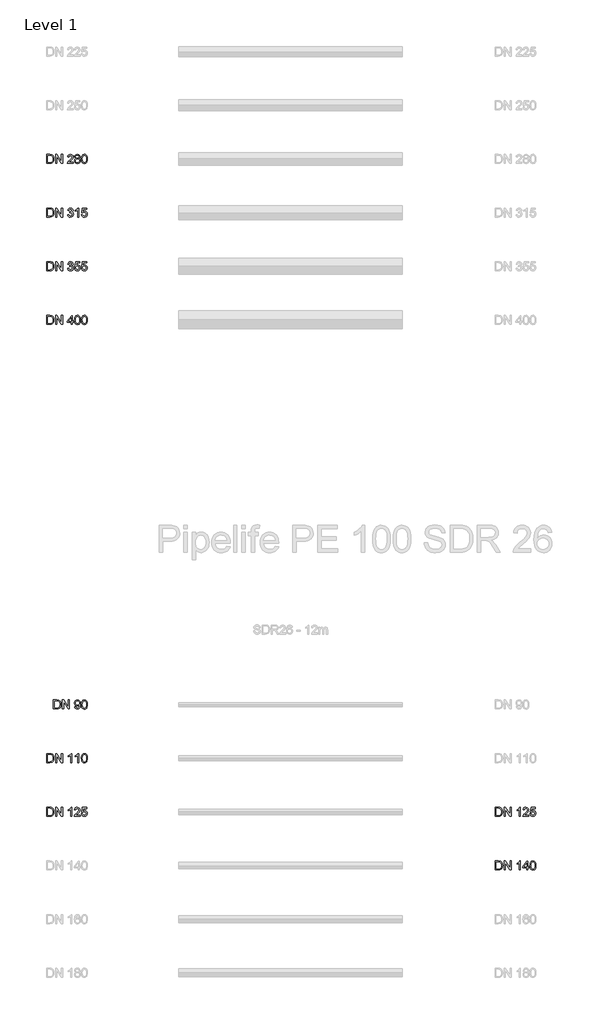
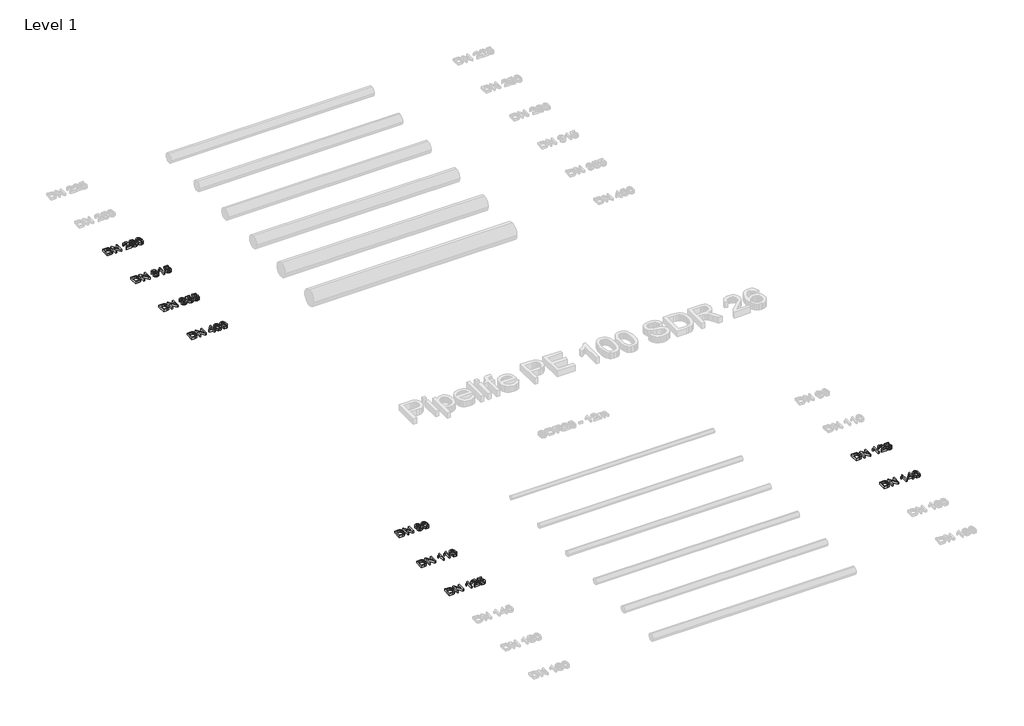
# One storey, part 5 of 26: 9 proxies.
"""IFC4 building model written with IfcOpenShell, lengths in millimetres."""

from ifc_helpers import new_model, si_unit, origin, origin_with_axes, place, context, project, spatial, polyline, outline, extrude, element, save

model = new_model("IFC4")

# Units and contexts
model_context = context("Model", 3, world=origin())
ifc_project = project(units=[si_unit("LENGTHUNIT", "METRE", prefix="MILLI")], contexts=[model_context])

# Site, building, storey
site = spatial("IfcSite", under=ifc_project)
building = spatial("IfcBuilding", under=site)
storey = spatial("IfcBuildingStorey", under=building, Name="Level 1", Elevation=0.0)

# Proxies
placement = place(None, origin())
element("IfcBuildingElementProxy", 1, Name="200mm Arial", ObjectType="200mm Arial", at=placement, inside=storey, context=model_context, shape_type="SweptSolid", body=[
    extrude(outline(polyline([(-19491.3116028, -82413.949573), (-19491.3116028, -82213.0369527), (-19422.0026349, -82213.0369527), (-19386.1464031, -82215.9309577), (-19370.1312736, -82221.5105013), (-19356.6177416, -82230.302881), (-19342.724065, -82245.606772), (-19332.8280393, -82264.6385338), (-19326.9051392, -82287.0302846), (-19324.9308391, -82312.4141423), (-19330.2773908, -82352.9547382), (-19344.0116519, -82382.2136195), (-19362.3567008, -82400.436041), (-19386.3671323, -82410.5160077), (-19418.6671715, -82413.949573), (-19491.3116028, -82413.949573)]), holes=[polyline([(-19466.1975253, -82388.8354954), (-19421.7573803, -82388.8354954), (-19389.4328156, -82385.2057264), (-19370.7934612, -82374.9540815), (-19362.0685265, -82364.0831685), (-19355.5140957, -82350.0116822), (-19351.4122114, -82332.6783089), (-19350.0449167, -82312.0217348), (-19352.7243239, -82284.6513144), (-19360.7625455, -82264.4423301), (-19372.6390025, -82250.5609162), (-19386.8331162, -82242.1732067), (-19422.4440933, -82238.1510302), (-19466.1975253, -82238.1510302), (-19466.1975253, -82388.8354954)])]), origin_with_axes(), (0.0, 0.0, 1.0), 50.0),
    extrude(outline(polyline([(-19290.3989825, -82413.949573), (-19290.3989825, -82213.0369527), (-19263.5190714, -82213.0369527), (-19158.5500754, -82372.2072292), (-19158.5500754, -82213.0369527), (-19133.4359979, -82213.0369527), (-19133.4359979, -82413.949573), (-19160.315909, -82413.949573), (-19265.284905, -82254.7302454), (-19265.284905, -82413.949573), (-19290.3989825, -82413.949573)])), origin_with_axes(), (0.0, 0.0, 1.0), 50.0),
    extrude(outline(polyline([(-19020.422649, -82360.5821582), (-18995.3085714, -82357.4428985), (-18989.6861083, -82373.2250361), (-18981.451683, -82383.8813512), (-18970.2006253, -82389.9514041), (-18955.528265, -82391.9747551), (-18938.3113877, -82389.1911147), (-18925.0185849, -82380.8401934), (-18916.5205108, -82368.3812565), (-18913.6878195, -82353.2735692), (-18916.4959853, -82338.9323028), (-18924.920483, -82327.3011004), (-18937.6737255, -82319.5939726), (-18953.4681259, -82317.02493), (-18971.0774107, -82319.7717822), (-18968.2815075, -82294.6577047), (-18964.2593311, -82294.9520102), (-18949.2129575, -82293.1493885), (-18935.7607392, -82287.7415231), (-18926.2693837, -82278.5935242), (-18923.1055985, -82265.5705016), (-18925.3987296, -82254.7241141), (-18932.2781229, -82245.925603), (-18942.7750225, -82240.0946734), (-18955.9206725, -82238.1510302), (-18969.0908479, -82240.1130675), (-18979.8575277, -82245.9991794), (-18987.7179396, -82255.809366), (-18992.1693118, -82269.5436271), (-19017.2833893, -82266.4043674), (-19009.8889612, -82243.8532011), (-18996.7310485, -82227.0164685), (-18978.7293562, -82216.5318316), (-18956.8035893, -82213.0369527), (-18941.0153203, -82214.7598667), (-18926.5146384, -82219.9286087), (-18914.2886934, -82228.0833263), (-18905.3246354, -82238.7641669), (-18899.8247996, -82251.0698196), (-18897.991521, -82264.0989736), (-18899.7328291, -82276.2390794), (-18904.9567534, -82287.2510138), (-18913.5897176, -82296.6320047), (-18925.5581452, -82303.87928), (-18909.8373212, -82310.2313758), (-18898.1877247, -82321.0471064), (-18890.9772376, -82335.7378608), (-18888.5737419, -82353.7150276), (-18893.3807333, -82378.191443), (-18907.8017075, -82398.645682), (-18929.5680589, -82412.478045), (-18956.4111818, -82417.0888326), (-18980.6913935, -82413.1524953), (-19000.4589194, -82401.3434833), (-19014.2054433, -82383.2804773), (-19020.422649, -82360.5821582)])), origin_with_axes(), (0.0, 0.0, 1.0), 50.0),
    extrude(outline(polyline([(-18772.4211333, -82413.949573), (-18797.5352108, -82413.949573), (-18797.5352108, -82257.3789958), (-18821.3249132, -82274.3260931), (-18847.7633659, -82287.0057592), (-18847.7633659, -82263.2651077), (-18810.9506409, -82239.769711), (-18797.4800285, -82226.1948653), (-18788.6079411, -82213.0369527), (-18772.4211333, -82213.0369527), (-18772.4211333, -82413.949573)])), origin_with_axes(), (0.0, 0.0, 1.0), 50.0),
    extrude(outline(polyline([(-18712.7751992, -82360.5821582), (-18687.6611216, -82357.4428985), (-18683.0503339, -82372.5199289), (-18675.005981, -82383.3172655), (-18663.5648509, -82389.8103827), (-18648.763732, -82391.9747551), (-18630.7620397, -82388.9642541), (-18617.2730332, -82379.9327511), (-18608.8485355, -82365.9225785), (-18606.0403696, -82347.9760685), (-18608.6707259, -82331.0780222), (-18616.5617947, -82318.1531014), (-18629.7748897, -82309.9493329), (-18648.3713245, -82307.2147434), (-18670.4197188, -82311.5802764), (-18684.5218619, -82322.9110419), (-18709.6359395, -82319.7717822), (-18687.6611216, -82216.1762123), (-18590.3440712, -82216.1762123), (-18590.3440712, -82241.2902899), (-18667.3540355, -82241.2902899), (-18678.0961897, -82296.619742), (-18660.1558111, -82285.7304349), (-18641.3570412, -82282.1006659), (-18617.8923012, -82286.601089), (-18598.4129496, -82300.1023582), (-18585.2979565, -82320.6792244), (-18580.9262921, -82346.4064386), (-18584.8626294, -82371.5205162), (-18596.6716415, -82393.0048247), (-18607.1072274, -82403.5415782), (-18619.2841214, -82411.0678307), (-18633.2023236, -82415.5835821), (-18648.8618339, -82417.0888326), (-18673.5283216, -82413.2199403), (-18693.1793515, -82401.6132634), (-18706.6499639, -82383.6177025), (-18712.7751992, -82360.5821582)])), origin_with_axes(), (0.0, 0.0, 1.0), 50.0),
])
element("IfcBuildingElementProxy", 2, Name="200mm Arial", ObjectType="200mm Arial", at=placement, inside=storey, context=model_context, shape_type="SweptSolid", body=[
    extrude(outline(polyline([(-19491.3116028, -84813.949573), (-19491.3116028, -84613.0369527), (-19422.0026349, -84613.0369527), (-19386.1464031, -84615.9309577), (-19370.1312736, -84621.5105013), (-19356.6177416, -84630.302881), (-19342.724065, -84645.606772), (-19332.8280393, -84664.6385338), (-19326.9051392, -84687.0302846), (-19324.9308391, -84712.4141423), (-19330.2773908, -84752.9547382), (-19344.0116519, -84782.2136195), (-19362.3567008, -84800.436041), (-19386.3671323, -84810.5160077), (-19418.6671715, -84813.949573), (-19491.3116028, -84813.949573)]), holes=[polyline([(-19466.1975253, -84788.8354954), (-19421.7573803, -84788.8354954), (-19389.4328156, -84785.2057264), (-19370.7934612, -84774.9540815), (-19362.0685265, -84764.0831685), (-19355.5140957, -84750.0116822), (-19351.4122114, -84732.6783089), (-19350.0449167, -84712.0217348), (-19352.7243239, -84684.6513144), (-19360.7625455, -84664.4423301), (-19372.6390025, -84650.5609162), (-19386.8331162, -84642.1732067), (-19422.4440933, -84638.1510302), (-19466.1975253, -84638.1510302), (-19466.1975253, -84788.8354954)])]), origin_with_axes(), (0.0, 0.0, 1.0), 50.0),
    extrude(outline(polyline([(-19290.3989825, -84813.949573), (-19290.3989825, -84613.0369527), (-19263.5190714, -84613.0369527), (-19158.5500754, -84772.2072292), (-19158.5500754, -84613.0369527), (-19133.4359979, -84613.0369527), (-19133.4359979, -84813.949573), (-19160.315909, -84813.949573), (-19265.284905, -84654.7302454), (-19265.284905, -84813.949573), (-19290.3989825, -84813.949573)])), origin_with_axes(), (0.0, 0.0, 1.0), 50.0),
    extrude(outline(polyline([(-18938.801897, -84813.949573), (-18938.801897, -84766.8606776), (-19029.8404281, -84766.8606776), (-19029.8404281, -84741.7466), (-18932.5233776, -84616.1762123), (-18913.6878195, -84616.1762123), (-18913.6878195, -84741.7466), (-18888.5737419, -84741.7466), (-18888.5737419, -84766.8606776), (-18913.6878195, -84766.8606776), (-18913.6878195, -84813.949573), (-18938.801897, -84813.949573)]), holes=[polyline([(-18938.801897, -84741.7466), (-18938.801897, -84664.1480245), (-18998.9383405, -84741.7466), (-18938.801897, -84741.7466)])]), origin_with_axes(), (0.0, 0.0, 1.0), 50.0),
    extrude(outline(polyline([(-18866.5989241, -84715.1119436), (-18864.7533827, -84682.9529258), (-18859.2167587, -84657.3054194), (-18850.0442343, -84637.7770168), (-18837.2909918, -84623.9753106), (-18820.8650607, -84615.7715422), (-18800.6744705, -84613.0369527), (-18785.1989013, -84614.6556334), (-18771.3420128, -84619.5116758), (-18759.7537299, -84627.4150073), (-18751.0839776, -84638.1755557), (-18739.3117537, -84667.9004209), (-18734.750017, -84715.1119436), (-18736.5771642, -84747.0870203), (-18742.058606, -84772.6732131), (-18751.1759481, -84792.2200098), (-18763.9107965, -84806.0768983), (-18780.3735158, -84814.335849), (-18800.6744705, -84817.0888326), (-18826.7695667, -84812.3063667), (-18846.5861435, -84797.9589689), (-18855.341735, -84782.8298218), (-18861.5957289, -84763.9789353), (-18866.5989241, -84715.1119436)]), holes=[polyline([(-18841.4848465, -84715.0628927), (-18838.5417906, -84754.5672876), (-18829.7126227, -84777.4311536), (-18816.5669727, -84788.3388547), (-18800.6744705, -84791.9747551), (-18784.7819683, -84788.326592), (-18771.6363184, -84777.3821026), (-18762.8071505, -84754.5059739), (-18759.8640945, -84715.0628927), (-18762.7090486, -84676.4475459), (-18771.2439109, -84653.4058703), (-18784.3650354, -84641.9647402), (-18800.9687761, -84638.1510302), (-18816.6896001, -84641.5110191), (-18829.3202152, -84651.5909857), (-18838.4436887, -84676.0674012), (-18841.4848465, -84715.0628927)])]), origin_with_axes(), (0.0, 0.0, 1.0), 50.0),
    extrude(outline(polyline([(-18712.7751992, -84715.1119436), (-18710.9296578, -84682.9529258), (-18705.3930338, -84657.3054194), (-18696.2205094, -84637.7770168), (-18683.4672669, -84623.9753106), (-18667.0413358, -84615.7715422), (-18646.8507456, -84613.0369527), (-18631.3751764, -84614.6556334), (-18617.5182879, -84619.5116758), (-18605.930005, -84627.4150073), (-18597.2602527, -84638.1755557), (-18585.4880288, -84667.9004209), (-18580.9262921, -84715.1119436), (-18582.7534393, -84747.0870203), (-18588.2348811, -84772.6732131), (-18597.3522232, -84792.2200098), (-18610.0870716, -84806.0768983), (-18626.5497909, -84814.335849), (-18646.8507456, -84817.0888326), (-18672.9458418, -84812.3063667), (-18692.7624186, -84797.9589689), (-18701.5180101, -84782.8298218), (-18707.772004, -84763.9789353), (-18712.7751992, -84715.1119436)]), holes=[polyline([(-18687.6611216, -84715.0628927), (-18684.7180657, -84754.5672876), (-18675.8888978, -84777.4311536), (-18662.7432478, -84788.3388547), (-18646.8507456, -84791.9747551), (-18630.9582434, -84788.326592), (-18617.8125935, -84777.3821026), (-18608.9834256, -84754.5059739), (-18606.0403696, -84715.0628927), (-18608.8853237, -84676.4475459), (-18617.420186, -84653.4058703), (-18630.5413105, -84641.9647402), (-18647.1450512, -84638.1510302), (-18662.8658751, -84641.5110191), (-18675.4964903, -84651.5909857), (-18684.6199638, -84676.0674012), (-18687.6611216, -84715.0628927)])]), origin_with_axes(), (0.0, 0.0, 1.0), 50.0),
])
element("IfcBuildingElementProxy", 3, Name="200mm Arial", ObjectType="200mm Arial", at=placement, inside=storey, context=model_context, shape_type="SweptSolid", body=[
    extrude(outline(polyline([(-19491.3116028, -81213.949573), (-19491.3116028, -81013.0369527), (-19422.0026349, -81013.0369527), (-19386.1464031, -81015.9309577), (-19370.1312736, -81021.5105013), (-19356.6177416, -81030.302881), (-19342.724065, -81045.606772), (-19332.8280393, -81064.6385338), (-19326.9051392, -81087.0302846), (-19324.9308391, -81112.4141423), (-19330.2773908, -81152.9547382), (-19344.0116519, -81182.2136195), (-19362.3567008, -81200.436041), (-19386.3671323, -81210.5160077), (-19418.6671715, -81213.949573), (-19491.3116028, -81213.949573)]), holes=[polyline([(-19466.1975253, -81188.8354954), (-19421.7573803, -81188.8354954), (-19389.4328156, -81185.2057264), (-19370.7934612, -81174.9540815), (-19362.0685265, -81164.0831685), (-19355.5140957, -81150.0116822), (-19351.4122114, -81132.6783089), (-19350.0449167, -81112.0217348), (-19352.7243239, -81084.6513144), (-19360.7625455, -81064.4423301), (-19372.6390025, -81050.5609162), (-19386.8331162, -81042.1732067), (-19422.4440933, -81038.1510302), (-19466.1975253, -81038.1510302), (-19466.1975253, -81188.8354954)])]), origin_with_axes(), (0.0, 0.0, 1.0), 50.0),
    extrude(outline(polyline([(-19290.3989825, -81213.949573), (-19290.3989825, -81013.0369527), (-19263.5190714, -81013.0369527), (-19158.5500754, -81172.2072292), (-19158.5500754, -81013.0369527), (-19133.4359979, -81013.0369527), (-19133.4359979, -81213.949573), (-19160.315909, -81213.949573), (-19265.284905, -81054.7302454), (-19265.284905, -81213.949573), (-19290.3989825, -81213.949573)])), origin_with_axes(), (0.0, 0.0, 1.0), 50.0),
    extrude(outline(polyline([(-18891.7130016, -81188.8354954), (-18891.7130016, -81213.949573), (-19023.5619087, -81213.949573), (-19020.8641074, -81196.6345937), (-19005.6092673, -81169.9754118), (-18974.1676195, -81140.8636832), (-18930.806595, -81099.0232377), (-18922.6764029, -81084.6022634), (-18919.9663388, -81070.5736967), (-18922.5231187, -81057.9982638), (-18930.1934583, -81047.5442838), (-18941.9840762, -81040.4993436), (-18956.9016912, -81038.1510302), (-18972.5673328, -81040.4441613), (-18984.7380955, -81047.3235546), (-18992.5923761, -81058.2496499), (-18995.3085714, -81072.6828868), (-19020.422649, -81069.5436271), (-19014.334202, -81045.2511527), (-19001.1701579, -81027.5069778), (-18981.6172299, -81016.6544589), (-18956.3621309, -81013.0369527), (-18930.9230909, -81017.0591291), (-18911.4069511, -81029.1256586), (-18898.9909337, -81047.1518763), (-18894.8522613, -81069.0531178), (-18899.3158962, -81092.8673456), (-18914.1538033, -81117.4909138), (-18950.1326624, -81151.9001431), (-18979.0236618, -81176.0577275), (-18990.3544272, -81188.8354954), (-18891.7130016, -81188.8354954)])), origin_with_axes(), (0.0, 0.0, 1.0), 50.0),
    extrude(outline(polyline([(-18830.0069283, -81103.2906688), (-18843.4530152, -81096.6687929), (-18852.8891884, -81087.6924722), (-18858.4626006, -81076.5456478), (-18860.3204047, -81063.4122605), (-18856.2737027, -81043.7796247), (-18844.1335969, -81027.5560287), (-18825.2612505, -81016.6667217), (-18801.0178271, -81013.0369527), (-18776.6272508, -81016.7525608), (-18757.5096498, -81027.8993853), (-18745.1488147, -81044.3804986), (-18741.0285364, -81064.0989736), (-18742.861815, -81076.8092965), (-18748.3616508, -81087.7660486), (-18757.5893575, -81096.687187), (-18770.6062488, -81103.2906688), (-18755.1490736, -81111.255314), (-18743.8980159, -81122.9846183), (-18737.0370167, -81137.9144959), (-18734.750017, -81155.4808612), (-18739.2872283, -81179.4912927), (-18752.8988621, -81199.332395), (-18773.9171868, -81212.6497232), (-18800.6744705, -81217.0888326), (-18827.4317543, -81212.6313291), (-18848.450079, -81199.2588186), (-18862.0617128, -81179.227644), (-18866.5989241, -81154.7941481), (-18864.2199538, -81136.5472012), (-18857.0830431, -81121.5376158), (-18845.5560739, -81110.2804267), (-18830.0069283, -81103.2906688)]), holes=[polyline([(-18841.4848465, -81153.9112313), (-18837.2909918, -81172.8203659), (-18831.4845876, -81180.9321639), (-18822.4530846, -81186.97156), (-18800.4782668, -81191.9747551), (-18783.3840168, -81189.3443988), (-18770.5571979, -81181.45333), (-18762.5373704, -81169.5032966), (-18759.8640945, -81154.6960463), (-18762.6232095, -81139.6374099), (-18770.9005544, -81127.4237277), (-18784.0216789, -81119.3303238), (-18801.3121327, -81116.6325225), (-18818.1672594, -81119.2935356), (-18830.8653196, -81127.2765749), (-18838.8299648, -81139.2572652), (-18841.4848465, -81153.9112313)]), polyline([(-18835.2063271, -81064.1480245), (-18832.9806411, -81075.110908), (-18826.3035829, -81083.8664995), (-18815.3713562, -81089.6054586), (-18800.3801649, -81091.518445), (-18785.7384615, -81089.6177213), (-18774.9717818, -81083.9155504), (-18768.3499059, -81075.4542645), (-18766.1426139, -81065.276196), (-18768.4234823, -81054.7118513), (-18775.2660874, -81045.974654), (-18786.1799199, -81040.1069361), (-18800.6744705, -81038.1510302), (-18815.2609916, -81040.0640166), (-18826.1564301, -81045.8029757), (-18832.9438529, -81054.2152106), (-18835.2063271, -81064.1480245)])]), origin_with_axes(), (0.0, 0.0, 1.0), 50.0),
    extrude(outline(polyline([(-18712.7751992, -81115.1119436), (-18710.9296578, -81082.9529258), (-18705.3930338, -81057.3054194), (-18696.2205094, -81037.7770168), (-18683.4672669, -81023.9753106), (-18667.0413358, -81015.7715422), (-18646.8507456, -81013.0369527), (-18631.3751764, -81014.6556334), (-18617.5182879, -81019.5116758), (-18605.930005, -81027.4150073), (-18597.2602527, -81038.1755557), (-18585.4880288, -81067.9004209), (-18580.9262921, -81115.1119436), (-18582.7534393, -81147.0870203), (-18588.2348811, -81172.6732131), (-18597.3522232, -81192.2200098), (-18610.0870716, -81206.0768983), (-18626.5497909, -81214.335849), (-18646.8507456, -81217.0888326), (-18672.9458418, -81212.3063667), (-18692.7624186, -81197.9589689), (-18701.5180101, -81182.8298218), (-18707.772004, -81163.9789353), (-18712.7751992, -81115.1119436)]), holes=[polyline([(-18687.6611216, -81115.0628927), (-18684.7180657, -81154.5672876), (-18675.8888978, -81177.4311536), (-18662.7432478, -81188.3388547), (-18646.8507456, -81191.9747551), (-18630.9582434, -81188.326592), (-18617.8125935, -81177.3821026), (-18608.9834256, -81154.5059739), (-18606.0403696, -81115.0628927), (-18608.8853237, -81076.4475459), (-18617.420186, -81053.4058703), (-18630.5413105, -81041.9647402), (-18647.1450512, -81038.1510302), (-18662.8658751, -81041.5110191), (-18675.4964903, -81051.5909857), (-18684.6199638, -81076.0674012), (-18687.6611216, -81115.0628927)])]), origin_with_axes(), (0.0, 0.0, 1.0), 50.0),
])
element("IfcBuildingElementProxy", 4, Name="200mm Arial", ObjectType="200mm Arial", at=placement, inside=storey, context=model_context, shape_type="SweptSolid", body=[
    extrude(outline(polyline([(-19491.3116028, -83613.949573), (-19491.3116028, -83413.0369527), (-19422.0026349, -83413.0369527), (-19386.1464031, -83415.9309577), (-19370.1312736, -83421.5105013), (-19356.6177416, -83430.302881), (-19342.724065, -83445.606772), (-19332.8280393, -83464.6385338), (-19326.9051392, -83487.0302846), (-19324.9308391, -83512.4141423), (-19330.2773908, -83552.9547382), (-19344.0116519, -83582.2136195), (-19362.3567008, -83600.436041), (-19386.3671323, -83610.5160077), (-19418.6671715, -83613.949573), (-19491.3116028, -83613.949573)]), holes=[polyline([(-19466.1975253, -83588.8354954), (-19421.7573803, -83588.8354954), (-19389.4328156, -83585.2057264), (-19370.7934612, -83574.9540815), (-19362.0685265, -83564.0831685), (-19355.5140957, -83550.0116822), (-19351.4122114, -83532.6783089), (-19350.0449167, -83512.0217348), (-19352.7243239, -83484.6513144), (-19360.7625455, -83464.4423301), (-19372.6390025, -83450.5609162), (-19386.8331162, -83442.1732067), (-19422.4440933, -83438.1510302), (-19466.1975253, -83438.1510302), (-19466.1975253, -83588.8354954)])]), origin_with_axes(), (0.0, 0.0, 1.0), 50.0),
    extrude(outline(polyline([(-19290.3989825, -83613.949573), (-19290.3989825, -83413.0369527), (-19263.5190714, -83413.0369527), (-19158.5500754, -83572.2072292), (-19158.5500754, -83413.0369527), (-19133.4359979, -83413.0369527), (-19133.4359979, -83613.949573), (-19160.315909, -83613.949573), (-19265.284905, -83454.7302454), (-19265.284905, -83613.949573), (-19290.3989825, -83613.949573)])), origin_with_axes(), (0.0, 0.0, 1.0), 50.0),
    extrude(outline(polyline([(-19020.422649, -83560.5821582), (-18995.3085714, -83557.4428985), (-18989.6861083, -83573.2250361), (-18981.451683, -83583.8813512), (-18970.2006253, -83589.9514041), (-18955.528265, -83591.9747551), (-18938.3113877, -83589.1911147), (-18925.0185849, -83580.8401934), (-18916.5205108, -83568.3812565), (-18913.6878195, -83553.2735692), (-18916.4959853, -83538.9323028), (-18924.920483, -83527.3011004), (-18937.6737255, -83519.5939726), (-18953.4681259, -83517.02493), (-18971.0774107, -83519.7717822), (-18968.2815075, -83494.6577047), (-18964.2593311, -83494.9520102), (-18949.2129575, -83493.1493885), (-18935.7607392, -83487.7415231), (-18926.2693837, -83478.5935242), (-18923.1055985, -83465.5705016), (-18925.3987296, -83454.7241141), (-18932.2781229, -83445.925603), (-18942.7750225, -83440.0946734), (-18955.9206725, -83438.1510302), (-18969.0908479, -83440.1130675), (-18979.8575277, -83445.9991794), (-18987.7179396, -83455.809366), (-18992.1693118, -83469.5436271), (-19017.2833893, -83466.4043674), (-19009.8889612, -83443.8532011), (-18996.7310485, -83427.0164685), (-18978.7293562, -83416.5318316), (-18956.8035893, -83413.0369527), (-18941.0153203, -83414.7598667), (-18926.5146384, -83419.9286087), (-18914.2886934, -83428.0833263), (-18905.3246354, -83438.7641669), (-18899.8247996, -83451.0698196), (-18897.991521, -83464.0989736), (-18899.7328291, -83476.2390794), (-18904.9567534, -83487.2510138), (-18913.5897176, -83496.6320047), (-18925.5581452, -83503.87928), (-18909.8373212, -83510.2313758), (-18898.1877247, -83521.0471064), (-18890.9772376, -83535.7378608), (-18888.5737419, -83553.7150276), (-18893.3807333, -83578.191443), (-18907.8017075, -83598.645682), (-18929.5680589, -83612.478045), (-18956.4111818, -83617.0888326), (-18980.6913935, -83613.1524953), (-19000.4589194, -83601.3434833), (-19014.2054433, -83583.2804773), (-19020.422649, -83560.5821582)])), origin_with_axes(), (0.0, 0.0, 1.0), 50.0),
    extrude(outline(polyline([(-18866.5989241, -83560.5821582), (-18841.4848465, -83557.4428985), (-18836.8740589, -83572.5199289), (-18828.8297059, -83583.3172655), (-18817.3885758, -83589.8103827), (-18802.5874569, -83591.9747551), (-18784.5857646, -83588.9642541), (-18771.0967581, -83579.9327511), (-18762.6722604, -83565.9225785), (-18759.8640945, -83547.9760685), (-18762.4944508, -83531.0780222), (-18770.3855196, -83518.1531014), (-18783.5986146, -83509.9493329), (-18802.1950494, -83507.2147434), (-18824.2434437, -83511.5802764), (-18838.3455868, -83522.9110419), (-18863.4596644, -83519.7717822), (-18841.4848465, -83416.1762123), (-18744.1677961, -83416.1762123), (-18744.1677961, -83441.2902899), (-18821.1777604, -83441.2902899), (-18831.9199147, -83496.619742), (-18813.979536, -83485.7304349), (-18795.1807661, -83482.1006659), (-18771.7160261, -83486.601089), (-18752.2366745, -83500.1023582), (-18739.1216814, -83520.6792244), (-18734.750017, -83546.4064386), (-18738.6863543, -83571.5205162), (-18750.4953664, -83593.0048247), (-18760.9309523, -83603.5415782), (-18773.1078464, -83611.0678307), (-18787.0260485, -83615.5835821), (-18802.6855588, -83617.0888326), (-18827.3520466, -83613.2199403), (-18847.0030765, -83601.6132634), (-18860.4736888, -83583.6177025), (-18866.5989241, -83560.5821582)])), origin_with_axes(), (0.0, 0.0, 1.0), 50.0),
    extrude(outline(polyline([(-18712.7751992, -83560.5821582), (-18687.6611216, -83557.4428985), (-18683.0503339, -83572.5199289), (-18675.005981, -83583.3172655), (-18663.5648509, -83589.8103827), (-18648.763732, -83591.9747551), (-18630.7620397, -83588.9642541), (-18617.2730332, -83579.9327511), (-18608.8485355, -83565.9225785), (-18606.0403696, -83547.9760685), (-18608.6707259, -83531.0780222), (-18616.5617947, -83518.1531014), (-18629.7748897, -83509.9493329), (-18648.3713245, -83507.2147434), (-18670.4197188, -83511.5802764), (-18684.5218619, -83522.9110419), (-18709.6359395, -83519.7717822), (-18687.6611216, -83416.1762123), (-18590.3440712, -83416.1762123), (-18590.3440712, -83441.2902899), (-18667.3540355, -83441.2902899), (-18678.0961897, -83496.619742), (-18660.1558111, -83485.7304349), (-18641.3570412, -83482.1006659), (-18617.8923012, -83486.601089), (-18598.4129496, -83500.1023582), (-18585.2979565, -83520.6792244), (-18580.9262921, -83546.4064386), (-18584.8626294, -83571.5205162), (-18596.6716415, -83593.0048247), (-18607.1072274, -83603.5415782), (-18619.2841214, -83611.0678307), (-18633.2023236, -83615.5835821), (-18648.8618339, -83617.0888326), (-18673.5283216, -83613.2199403), (-18693.1793515, -83601.6132634), (-18706.6499639, -83583.6177025), (-18712.7751992, -83560.5821582)])), origin_with_axes(), (0.0, 0.0, 1.0), 50.0),
])
element("IfcBuildingElementProxy", 5, Name="200mm Arial", ObjectType="200mm Arial", at=placement, inside=storey, context=model_context, shape_type="SweptSolid", body=[
    extrude(outline(polyline([(-19337.4878779, -93413.949573), (-19337.4878779, -93213.0369527), (-19268.17891, -93213.0369527), (-19232.3226782, -93215.9309577), (-19216.3075487, -93221.5105013), (-19202.7940167, -93230.302881), (-19188.90034, -93245.606772), (-19179.0043144, -93264.6385338), (-19173.0814143, -93287.0302846), (-19171.1071142, -93312.4141423), (-19176.4536659, -93352.9547382), (-19190.187927, -93382.2136195), (-19208.5329759, -93400.436041), (-19232.5434074, -93410.5160077), (-19264.8434466, -93413.949573), (-19337.4878779, -93413.949573)]), holes=[polyline([(-19312.3738004, -93388.8354954), (-19267.9336553, -93388.8354954), (-19235.6090907, -93385.2057264), (-19216.9697363, -93374.9540815), (-19208.2448016, -93364.0831685), (-19201.6903707, -93350.0116822), (-19197.5884865, -93332.6783089), (-19196.2211917, -93312.0217348), (-19198.9005989, -93284.6513144), (-19206.9388205, -93264.4423301), (-19218.8152776, -93250.5609162), (-19233.0093913, -93242.1732067), (-19268.6203684, -93238.1510302), (-19312.3738004, -93238.1510302), (-19312.3738004, -93388.8354954)])]), origin_with_axes(), (0.0, 0.0, 1.0), 50.0),
    extrude(outline(polyline([(-19136.5752576, -93413.949573), (-19136.5752576, -93213.0369527), (-19109.6953465, -93213.0369527), (-19004.7263505, -93372.2072292), (-19004.7263505, -93213.0369527), (-18979.612273, -93213.0369527), (-18979.612273, -93413.949573), (-19006.4921841, -93413.949573), (-19111.4611801, -93254.7302454), (-19111.4611801, -93413.949573), (-19136.5752576, -93413.949573)])), origin_with_axes(), (0.0, 0.0, 1.0), 50.0),
    extrude(outline(polyline([(-18863.4596644, -93363.7214179), (-18838.3455868, -93360.5821582), (-18834.0536302, -93374.8375855), (-18827.0638723, -93384.5435388), (-18817.5479914, -93390.116951), (-18805.6776657, -93391.9747551), (-18785.3460541, -93387.1922892), (-18771.562742, -93374.4145212), (-18763.3467108, -93352.5868562), (-18759.7169417, -93323.4506021), (-18759.8640945, -93318.5455089), (-18768.5645037, -93329.1650358), (-18779.9504515, -93337.5772708), (-18793.2003347, -93343.0587125), (-18807.4925502, -93344.8858597), (-18830.3932044, -93340.4222249), (-18849.4556231, -93327.0313202), (-18862.3130988, -93306.3440894), (-18866.5989241, -93279.9914758), (-18862.1046324, -93252.7682081), (-18848.6217572, -93231.4310524), (-18828.3698534, -93217.6354776), (-18803.5684756, -93213.0369527), (-18784.8371506, -93215.6611776), (-18767.7858202, -93223.5338523), (-18753.5242615, -93236.2625693), (-18743.162252, -93253.4549212), (-18736.8530757, -93277.2200981), (-18734.750017, -93309.6672901), (-18736.8469444, -93344.070388), (-18743.1377265, -93370.6621249), (-18753.5671811, -93390.6442486), (-18768.0801258, -93405.2185069), (-18786.0511612, -93414.1212512), (-18806.8548881, -93417.0888326), (-18828.3269338, -93413.5878223), (-18845.4579721, -93403.0847914), (-18857.4386624, -93386.2419274), (-18863.4596644, -93363.7214179)]), holes=[polyline([(-18759.8640945, -93279.4028646), (-18762.5741586, -93262.3821909), (-18770.7043507, -93249.2855919), (-18783.3227031, -93240.9346706), (-18799.4972481, -93238.1510302), (-18816.2726671, -93241.1492685), (-18829.7126227, -93250.1439832), (-18838.5417906, -93263.9089012), (-18841.4848465, -93281.2177491), (-18838.7012061, -93296.7362379), (-18830.3502848, -93309.0541534), (-18817.2414231, -93317.092375), (-18800.1839612, -93319.7717822), (-18784.1381749, -93317.092375), (-18771.2193855, -93309.0541534), (-18762.7029173, -93296.2825168), (-18759.8640945, -93279.4028646)])]), origin_with_axes(), (0.0, 0.0, 1.0), 50.0),
    extrude(outline(polyline([(-18712.7751992, -93315.1119436), (-18710.9296578, -93282.9529258), (-18705.3930338, -93257.3054194), (-18696.2205094, -93237.7770168), (-18683.4672669, -93223.9753106), (-18667.0413358, -93215.7715422), (-18646.8507456, -93213.0369527), (-18631.3751764, -93214.6556334), (-18617.5182879, -93219.5116758), (-18605.930005, -93227.4150073), (-18597.2602527, -93238.1755557), (-18585.4880288, -93267.9004209), (-18580.9262921, -93315.1119436), (-18582.7534393, -93347.0870203), (-18588.2348811, -93372.6732131), (-18597.3522232, -93392.2200098), (-18610.0870716, -93406.0768983), (-18626.5497909, -93414.335849), (-18646.8507456, -93417.0888326), (-18672.9458418, -93412.3063667), (-18692.7624186, -93397.9589689), (-18701.5180101, -93382.8298218), (-18707.772004, -93363.9789353), (-18712.7751992, -93315.1119436)]), holes=[polyline([(-18687.6611216, -93315.0628927), (-18684.7180657, -93354.5672876), (-18675.8888978, -93377.4311536), (-18662.7432478, -93388.3388547), (-18646.8507456, -93391.9747551), (-18630.9582434, -93388.326592), (-18617.8125935, -93377.3821026), (-18608.9834256, -93354.5059739), (-18606.0403696, -93315.0628927), (-18608.8853237, -93276.4475459), (-18617.420186, -93253.4058703), (-18630.5413105, -93241.9647402), (-18647.1450512, -93238.1510302), (-18662.8658751, -93241.5110191), (-18675.4964903, -93251.5909857), (-18684.6199638, -93276.0674012), (-18687.6611216, -93315.0628927)])]), origin_with_axes(), (0.0, 0.0, 1.0), 50.0),
])
element("IfcBuildingElementProxy", 6, Name="200mm Arial", ObjectType="200mm Arial", at=placement, inside=storey, context=model_context, shape_type="SweptSolid", body=[
    extrude(outline(polyline([(-19491.3116028, -94613.949573), (-19491.3116028, -94413.0369527), (-19422.0026349, -94413.0369527), (-19386.1464031, -94415.9309577), (-19370.1312736, -94421.5105013), (-19356.6177416, -94430.302881), (-19342.724065, -94445.606772), (-19332.8280393, -94464.6385338), (-19326.9051392, -94487.0302846), (-19324.9308391, -94512.4141423), (-19330.2773908, -94552.9547382), (-19344.0116519, -94582.2136195), (-19362.3567008, -94600.436041), (-19386.3671323, -94610.5160077), (-19418.6671715, -94613.949573), (-19491.3116028, -94613.949573)]), holes=[polyline([(-19466.1975253, -94588.8354954), (-19421.7573803, -94588.8354954), (-19389.4328156, -94585.2057264), (-19370.7934612, -94574.9540815), (-19362.0685265, -94564.0831685), (-19355.5140957, -94550.0116822), (-19351.4122114, -94532.6783089), (-19350.0449167, -94512.0217348), (-19352.7243239, -94484.6513144), (-19360.7625455, -94464.4423301), (-19372.6390025, -94450.5609162), (-19386.8331162, -94442.1732067), (-19422.4440933, -94438.1510302), (-19466.1975253, -94438.1510302), (-19466.1975253, -94588.8354954)])]), origin_with_axes(), (0.0, 0.0, 1.0), 50.0),
    extrude(outline(polyline([(-19290.3989825, -94613.949573), (-19290.3989825, -94413.0369527), (-19263.5190714, -94413.0369527), (-19158.5500754, -94572.2072292), (-19158.5500754, -94413.0369527), (-19133.4359979, -94413.0369527), (-19133.4359979, -94613.949573), (-19160.315909, -94613.949573), (-19265.284905, -94454.7302454), (-19265.284905, -94613.949573), (-19290.3989825, -94613.949573)])), origin_with_axes(), (0.0, 0.0, 1.0), 50.0),
    extrude(outline(polyline([(-18926.2448582, -94613.949573), (-18951.3589358, -94613.949573), (-18951.3589358, -94457.3789958), (-18975.1486381, -94474.3260931), (-19001.5870908, -94487.0057592), (-19001.5870908, -94463.2651077), (-18964.7743658, -94439.769711), (-18951.3037535, -94426.1948653), (-18942.431666, -94413.0369527), (-18926.2448582, -94413.0369527), (-18926.2448582, -94613.949573)])), origin_with_axes(), (0.0, 0.0, 1.0), 50.0),
    extrude(outline(polyline([(-18772.4211333, -94613.949573), (-18797.5352108, -94613.949573), (-18797.5352108, -94457.3789958), (-18821.3249132, -94474.3260931), (-18847.7633659, -94487.0057592), (-18847.7633659, -94463.2651077), (-18810.9506409, -94439.769711), (-18797.4800285, -94426.1948653), (-18788.6079411, -94413.0369527), (-18772.4211333, -94413.0369527), (-18772.4211333, -94613.949573)])), origin_with_axes(), (0.0, 0.0, 1.0), 50.0),
    extrude(outline(polyline([(-18712.7751992, -94515.1119436), (-18710.9296578, -94482.9529258), (-18705.3930338, -94457.3054194), (-18696.2205094, -94437.7770168), (-18683.4672669, -94423.9753106), (-18667.0413358, -94415.7715422), (-18646.8507456, -94413.0369527), (-18631.3751764, -94414.6556334), (-18617.5182879, -94419.5116758), (-18605.930005, -94427.4150073), (-18597.2602527, -94438.1755557), (-18585.4880288, -94467.9004209), (-18580.9262921, -94515.1119436), (-18582.7534393, -94547.0870203), (-18588.2348811, -94572.6732131), (-18597.3522232, -94592.2200098), (-18610.0870716, -94606.0768983), (-18626.5497909, -94614.335849), (-18646.8507456, -94617.0888326), (-18672.9458418, -94612.3063667), (-18692.7624186, -94597.9589689), (-18701.5180101, -94582.8298218), (-18707.772004, -94563.9789353), (-18712.7751992, -94515.1119436)]), holes=[polyline([(-18687.6611216, -94515.0628927), (-18684.7180657, -94554.5672876), (-18675.8888978, -94577.4311536), (-18662.7432478, -94588.3388547), (-18646.8507456, -94591.9747551), (-18630.9582434, -94588.326592), (-18617.8125935, -94577.3821026), (-18608.9834256, -94554.5059739), (-18606.0403696, -94515.0628927), (-18608.8853237, -94476.4475459), (-18617.420186, -94453.4058703), (-18630.5413105, -94441.9647402), (-18647.1450512, -94438.1510302), (-18662.8658751, -94441.5110191), (-18675.4964903, -94451.5909857), (-18684.6199638, -94476.0674012), (-18687.6611216, -94515.0628927)])]), origin_with_axes(), (0.0, 0.0, 1.0), 50.0),
])
element("IfcBuildingElementProxy", 7, Name="200mm Arial", ObjectType="200mm Arial", at=placement, inside=storey, context=model_context, shape_type="SweptSolid", body=[
    extrude(outline(polyline([(-19491.3116028, -95813.949573), (-19491.3116028, -95613.0369527), (-19422.0026349, -95613.0369527), (-19386.1464031, -95615.9309577), (-19370.1312736, -95621.5105013), (-19356.6177416, -95630.302881), (-19342.724065, -95645.606772), (-19332.8280393, -95664.6385338), (-19326.9051392, -95687.0302846), (-19324.9308391, -95712.4141423), (-19330.2773908, -95752.9547382), (-19344.0116519, -95782.2136195), (-19362.3567008, -95800.436041), (-19386.3671323, -95810.5160077), (-19418.6671715, -95813.949573), (-19491.3116028, -95813.949573)]), holes=[polyline([(-19466.1975253, -95788.8354954), (-19421.7573803, -95788.8354954), (-19389.4328156, -95785.2057264), (-19370.7934612, -95774.9540815), (-19362.0685265, -95764.0831685), (-19355.5140957, -95750.0116822), (-19351.4122114, -95732.6783089), (-19350.0449167, -95712.0217348), (-19352.7243239, -95684.6513144), (-19360.7625455, -95664.4423301), (-19372.6390025, -95650.5609162), (-19386.8331162, -95642.1732067), (-19422.4440933, -95638.1510302), (-19466.1975253, -95638.1510302), (-19466.1975253, -95788.8354954)])]), origin_with_axes(), (0.0, 0.0, 1.0), 50.0),
    extrude(outline(polyline([(-19290.3989825, -95813.949573), (-19290.3989825, -95613.0369527), (-19263.5190714, -95613.0369527), (-19158.5500754, -95772.2072292), (-19158.5500754, -95613.0369527), (-19133.4359979, -95613.0369527), (-19133.4359979, -95813.949573), (-19160.315909, -95813.949573), (-19265.284905, -95654.7302454), (-19265.284905, -95813.949573), (-19290.3989825, -95813.949573)])), origin_with_axes(), (0.0, 0.0, 1.0), 50.0),
    extrude(outline(polyline([(-18926.2448582, -95813.949573), (-18951.3589358, -95813.949573), (-18951.3589358, -95657.3789958), (-18975.1486381, -95674.3260931), (-19001.5870908, -95687.0057592), (-19001.5870908, -95663.2651077), (-18964.7743658, -95639.769711), (-18951.3037535, -95626.1948653), (-18942.431666, -95613.0369527), (-18926.2448582, -95613.0369527), (-18926.2448582, -95813.949573)])), origin_with_axes(), (0.0, 0.0, 1.0), 50.0),
    extrude(outline(polyline([(-18737.8892767, -95788.8354954), (-18737.8892767, -95813.949573), (-18869.7381838, -95813.949573), (-18867.0403825, -95796.6345937), (-18851.7855424, -95769.9754118), (-18820.3438945, -95740.8636832), (-18776.98287, -95699.0232377), (-18768.852678, -95684.6022634), (-18766.1426139, -95670.5736967), (-18768.6993938, -95657.9982638), (-18776.3697334, -95647.5442838), (-18788.1603513, -95640.4993436), (-18803.0779662, -95638.1510302), (-18818.7436079, -95640.4441613), (-18830.9143705, -95647.3235546), (-18838.7686511, -95658.2496499), (-18841.4848465, -95672.6828868), (-18866.5989241, -95669.5436271), (-18860.510477, -95645.2511527), (-18847.346433, -95627.5069778), (-18827.7935049, -95616.6544589), (-18802.538406, -95613.0369527), (-18777.099366, -95617.0591291), (-18757.5832262, -95629.1256586), (-18745.1672088, -95647.1518763), (-18741.0285364, -95669.0531178), (-18745.4921713, -95692.8673456), (-18760.3300784, -95717.4909138), (-18796.3089375, -95751.9001431), (-18825.1999369, -95776.0577275), (-18836.5307023, -95788.8354954), (-18737.8892767, -95788.8354954)])), origin_with_axes(), (0.0, 0.0, 1.0), 50.0),
    extrude(outline(polyline([(-18712.7751992, -95760.5821582), (-18687.6611216, -95757.4428985), (-18683.0503339, -95772.5199289), (-18675.005981, -95783.3172655), (-18663.5648509, -95789.8103827), (-18648.763732, -95791.9747551), (-18630.7620397, -95788.9642541), (-18617.2730332, -95779.9327511), (-18608.8485355, -95765.9225785), (-18606.0403696, -95747.9760685), (-18608.6707259, -95731.0780222), (-18616.5617947, -95718.1531014), (-18629.7748897, -95709.9493329), (-18648.3713245, -95707.2147434), (-18670.4197188, -95711.5802764), (-18684.5218619, -95722.9110419), (-18709.6359395, -95719.7717822), (-18687.6611216, -95616.1762123), (-18590.3440712, -95616.1762123), (-18590.3440712, -95641.2902899), (-18667.3540355, -95641.2902899), (-18678.0961897, -95696.619742), (-18660.1558111, -95685.7304349), (-18641.3570412, -95682.1006659), (-18617.8923012, -95686.601089), (-18598.4129496, -95700.1023582), (-18585.2979565, -95720.6792244), (-18580.9262921, -95746.4064386), (-18584.8626294, -95771.5205162), (-18596.6716415, -95793.0048247), (-18607.1072274, -95803.5415782), (-18619.2841214, -95811.0678307), (-18633.2023236, -95815.5835821), (-18648.8618339, -95817.0888326), (-18673.5283216, -95813.2199403), (-18693.1793515, -95801.6132634), (-18706.6499639, -95783.6177025), (-18712.7751992, -95760.5821582)])), origin_with_axes(), (0.0, 0.0, 1.0), 50.0),
])
element("IfcBuildingElementProxy", 8, Name="200mm Arial", ObjectType="200mm Arial", at=placement, inside=storey, context=model_context, shape_type="SweptSolid", body=[
    extrude(outline(polyline([(-9460.6923074, -95813.949573), (-9460.6923074, -95613.0369527), (-9391.3833395, -95613.0369527), (-9355.5271077, -95615.9309577), (-9339.5119782, -95621.5105013), (-9325.9984462, -95630.302881), (-9312.1047695, -95645.606772), (-9302.2087438, -95664.6385338), (-9296.2858437, -95687.0302846), (-9294.3115437, -95712.4141423), (-9299.6580953, -95752.9547382), (-9313.3923565, -95782.2136195), (-9331.7374053, -95800.436041), (-9355.7478369, -95810.5160077), (-9388.0478761, -95813.949573), (-9460.6923074, -95813.949573)]), holes=[polyline([(-9435.5782298, -95788.8354954), (-9391.1380848, -95788.8354954), (-9358.8135202, -95785.2057264), (-9340.1741658, -95774.9540815), (-9331.4492311, -95764.0831685), (-9324.8948002, -95750.0116822), (-9320.792916, -95732.6783089), (-9319.4256212, -95712.0217348), (-9322.1050284, -95684.6513144), (-9330.14325, -95664.4423301), (-9342.0197071, -95650.5609162), (-9356.2138207, -95642.1732067), (-9391.8247979, -95638.1510302), (-9435.5782298, -95638.1510302), (-9435.5782298, -95788.8354954)])]), origin_with_axes(), (0.0, 0.0, 1.0), 50.0),
    extrude(outline(polyline([(-9259.7796871, -95813.949573), (-9259.7796871, -95613.0369527), (-9232.899776, -95613.0369527), (-9127.93078, -95772.2072292), (-9127.93078, -95613.0369527), (-9102.8167025, -95613.0369527), (-9102.8167025, -95813.949573), (-9129.6966136, -95813.949573), (-9234.6656095, -95654.7302454), (-9234.6656095, -95813.949573), (-9259.7796871, -95813.949573)])), origin_with_axes(), (0.0, 0.0, 1.0), 50.0),
    extrude(outline(polyline([(-8895.6255628, -95813.949573), (-8920.7396403, -95813.949573), (-8920.7396403, -95657.3789958), (-8944.5293427, -95674.3260931), (-8970.9677954, -95687.0057592), (-8970.9677954, -95663.2651077), (-8934.1550704, -95639.769711), (-8920.684458, -95626.1948653), (-8911.8123706, -95613.0369527), (-8895.6255628, -95613.0369527), (-8895.6255628, -95813.949573)])), origin_with_axes(), (0.0, 0.0, 1.0), 50.0),
    extrude(outline(polyline([(-8707.2699812, -95788.8354954), (-8707.2699812, -95813.949573), (-8839.1188883, -95813.949573), (-8836.421087, -95796.6345937), (-8821.166247, -95769.9754118), (-8789.7245991, -95740.8636832), (-8746.3635746, -95699.0232377), (-8738.2333825, -95684.6022634), (-8735.5233185, -95670.5736967), (-8738.0800983, -95657.9982638), (-8745.7504379, -95647.5442838), (-8757.5410559, -95640.4993436), (-8772.4586708, -95638.1510302), (-8788.1243124, -95640.4441613), (-8800.2950751, -95647.3235546), (-8808.1493557, -95658.2496499), (-8810.8655511, -95672.6828868), (-8835.9796286, -95669.5436271), (-8829.8911816, -95645.2511527), (-8816.7271375, -95627.5069778), (-8797.1742095, -95616.6544589), (-8771.9191105, -95613.0369527), (-8746.4800706, -95617.0591291), (-8726.9639307, -95629.1256586), (-8714.5479134, -95647.1518763), (-8710.4092409, -95669.0531178), (-8714.8728758, -95692.8673456), (-8729.710783, -95717.4909138), (-8765.6896421, -95751.9001431), (-8794.5806414, -95776.0577275), (-8805.9114069, -95788.8354954), (-8707.2699812, -95788.8354954)])), origin_with_axes(), (0.0, 0.0, 1.0), 50.0),
    extrude(outline(polyline([(-8682.1559037, -95760.5821582), (-8657.0418262, -95757.4428985), (-8652.4310385, -95772.5199289), (-8644.3866855, -95783.3172655), (-8632.9455555, -95789.8103827), (-8618.1444366, -95791.9747551), (-8600.1427443, -95788.9642541), (-8586.6537378, -95779.9327511), (-8578.2292401, -95765.9225785), (-8575.4210742, -95747.9760685), (-8578.0514304, -95731.0780222), (-8585.9424992, -95718.1531014), (-8599.1555942, -95709.9493329), (-8617.7520291, -95707.2147434), (-8639.8004233, -95711.5802764), (-8653.9025665, -95722.9110419), (-8679.016644, -95719.7717822), (-8657.0418262, -95616.1762123), (-8559.7247757, -95616.1762123), (-8559.7247757, -95641.2902899), (-8636.73474, -95641.2902899), (-8647.4768943, -95696.619742), (-8629.5365157, -95685.7304349), (-8610.7377457, -95682.1006659), (-8587.2730058, -95686.601089), (-8567.7936541, -95700.1023582), (-8554.678661, -95720.6792244), (-8550.3069966, -95746.4064386), (-8554.243334, -95771.5205162), (-8566.052346, -95793.0048247), (-8576.487932, -95803.5415782), (-8588.664826, -95811.0678307), (-8602.5830282, -95815.5835821), (-8618.2425384, -95817.0888326), (-8642.9090262, -95813.2199403), (-8662.5600561, -95801.6132634), (-8676.0306685, -95783.6177025), (-8682.1559037, -95760.5821582)])), origin_with_axes(), (0.0, 0.0, 1.0), 50.0),
])
element("IfcBuildingElementProxy", 9, Name="200mm Arial", ObjectType="200mm Arial", at=placement, inside=storey, context=model_context, shape_type="SweptSolid", body=[
    extrude(outline(polyline([(-9460.6923074, -97013.949573), (-9460.6923074, -96813.0369527), (-9391.3833395, -96813.0369527), (-9355.5271077, -96815.9309577), (-9339.5119782, -96821.5105013), (-9325.9984462, -96830.302881), (-9312.1047695, -96845.606772), (-9302.2087438, -96864.6385338), (-9296.2858437, -96887.0302846), (-9294.3115437, -96912.4141423), (-9299.6580953, -96952.9547382), (-9313.3923565, -96982.2136195), (-9331.7374053, -97000.436041), (-9355.7478369, -97010.5160077), (-9388.0478761, -97013.949573), (-9460.6923074, -97013.949573)]), holes=[polyline([(-9435.5782298, -96988.8354954), (-9391.1380848, -96988.8354954), (-9358.8135202, -96985.2057264), (-9340.1741658, -96974.9540815), (-9331.4492311, -96964.0831685), (-9324.8948002, -96950.0116822), (-9320.792916, -96932.6783089), (-9319.4256212, -96912.0217348), (-9322.1050284, -96884.6513144), (-9330.14325, -96864.4423301), (-9342.0197071, -96850.5609162), (-9356.2138207, -96842.1732067), (-9391.8247979, -96838.1510302), (-9435.5782298, -96838.1510302), (-9435.5782298, -96988.8354954)])]), origin_with_axes(), (0.0, 0.0, 1.0), 50.0),
    extrude(outline(polyline([(-9259.7796871, -97013.949573), (-9259.7796871, -96813.0369527), (-9232.899776, -96813.0369527), (-9127.93078, -96972.2072292), (-9127.93078, -96813.0369527), (-9102.8167025, -96813.0369527), (-9102.8167025, -97013.949573), (-9129.6966136, -97013.949573), (-9234.6656095, -96854.7302454), (-9234.6656095, -97013.949573), (-9259.7796871, -97013.949573)])), origin_with_axes(), (0.0, 0.0, 1.0), 50.0),
    extrude(outline(polyline([(-8895.6255628, -97013.949573), (-8920.7396403, -97013.949573), (-8920.7396403, -96857.3789958), (-8944.5293427, -96874.3260931), (-8970.9677954, -96887.0057592), (-8970.9677954, -96863.2651077), (-8934.1550704, -96839.769711), (-8920.684458, -96826.1948653), (-8911.8123706, -96813.0369527), (-8895.6255628, -96813.0369527), (-8895.6255628, -97013.949573)])), origin_with_axes(), (0.0, 0.0, 1.0), 50.0),
    extrude(outline(polyline([(-8754.3588766, -97013.949573), (-8754.3588766, -96966.8606776), (-8845.3974077, -96966.8606776), (-8845.3974077, -96941.7466), (-8748.0803572, -96816.1762123), (-8729.2447991, -96816.1762123), (-8729.2447991, -96941.7466), (-8704.1307216, -96941.7466), (-8704.1307216, -96966.8606776), (-8729.2447991, -96966.8606776), (-8729.2447991, -97013.949573), (-8754.3588766, -97013.949573)]), holes=[polyline([(-8754.3588766, -96941.7466), (-8754.3588766, -96864.1480245), (-8814.4953201, -96941.7466), (-8754.3588766, -96941.7466)])]), origin_with_axes(), (0.0, 0.0, 1.0), 50.0),
    extrude(outline(polyline([(-8682.1559037, -96915.1119436), (-8680.3103624, -96882.9529258), (-8674.7737383, -96857.3054194), (-8665.6012139, -96837.7770168), (-8652.8479714, -96823.9753106), (-8636.4220403, -96815.7715422), (-8616.2314502, -96813.0369527), (-8600.7558809, -96814.6556334), (-8586.8989924, -96819.5116758), (-8575.3107096, -96827.4150073), (-8566.6409572, -96838.1755557), (-8554.8687334, -96867.9004209), (-8550.3069966, -96915.1119436), (-8552.1341439, -96947.0870203), (-8557.6155856, -96972.6732131), (-8566.7329277, -96992.2200098), (-8579.4677761, -97006.0768983), (-8595.9304954, -97014.335849), (-8616.2314502, -97017.0888326), (-8642.3265464, -97012.3063667), (-8662.1431232, -96997.9589689), (-8670.8987147, -96982.8298218), (-8677.1527086, -96963.9789353), (-8682.1559037, -96915.1119436)]), holes=[polyline([(-8657.0418262, -96915.0628927), (-8654.0987702, -96954.5672876), (-8645.2696023, -96977.4311536), (-8632.1239524, -96988.3388547), (-8616.2314502, -96991.9747551), (-8600.338948, -96988.326592), (-8587.193298, -96977.3821026), (-8578.3641301, -96954.5059739), (-8575.4210742, -96915.0628927), (-8578.2660283, -96876.4475459), (-8586.8008906, -96853.4058703), (-8599.9220151, -96841.9647402), (-8616.5257558, -96838.1510302), (-8632.2465797, -96841.5110191), (-8644.8771949, -96851.5909857), (-8654.0006683, -96876.0674012), (-8657.0418262, -96915.0628927)])]), origin_with_axes(), (0.0, 0.0, 1.0), 50.0),
])

save(model, "model.ifc")
